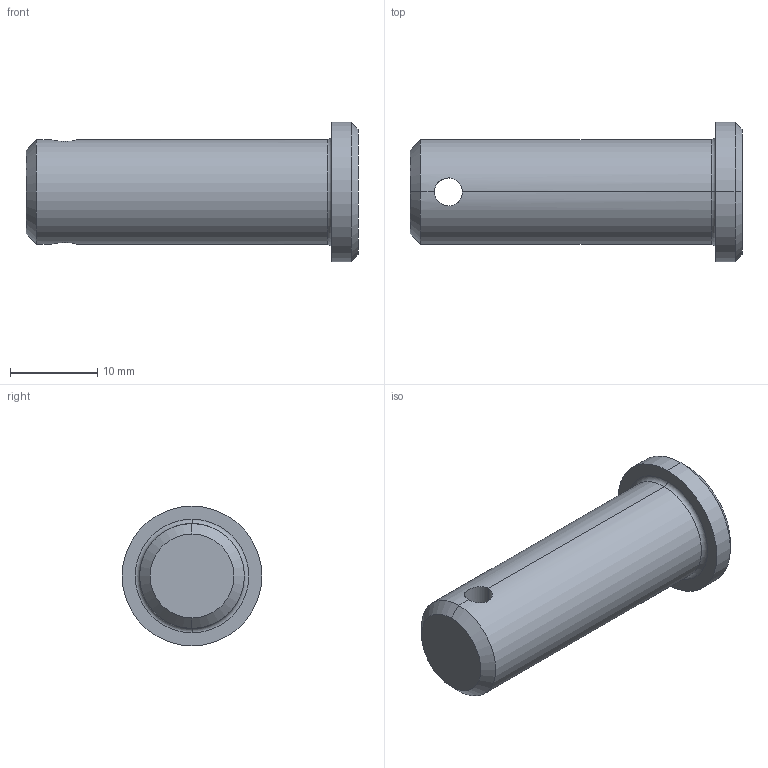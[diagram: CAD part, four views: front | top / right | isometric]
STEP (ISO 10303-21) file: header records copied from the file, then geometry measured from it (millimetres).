
FILE_DESCRIPTION (( 'STEP AP203' ), '1' );
FILE_NAME ('Wiberger-sms2360_12x35.step', '2012-10-09T08:57:31', ( 'Magnus' ), ( 'Wiberger' ), 'SwSTEP 2.0', 'SolidWorks 2011', '' );
FILE_SCHEMA (( 'CONFIG_CONTROL_DESIGN' ));
Length unit declared in the file: millimetre
Products named in the file (1): Wiberger-sms2360_12x35
Bounding box: 38 x 16 x 16 mm (x, y, z)
Volume: 4427.1 mm3; surface area: 1913.9 mm2
Topology: 1 solids, 1 shells, 15 faces, 32 edges, 18 vertices
Faces by surface type: cylinder 6, cone 4, plane 3, torus 2
Entity records: 579 total; most frequent: CARTESIAN_POINT 170, DIRECTION 76, ORIENTED_EDGE 64, EDGE_CURVE 32, AXIS2_PLACEMENT_3D 32, VERTEX_POINT 18, EDGE_LOOP 16, CIRCLE 16
